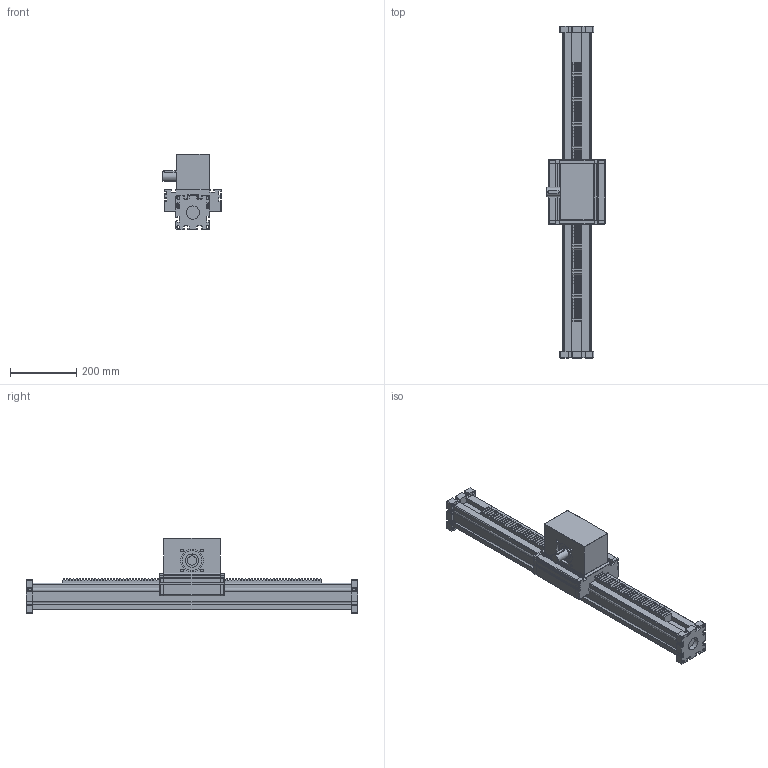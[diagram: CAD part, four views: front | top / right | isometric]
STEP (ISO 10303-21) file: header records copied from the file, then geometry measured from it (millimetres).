
FILE_DESCRIPTION (( 'STEP AP214' ), '1' );
FILE_NAME ('ELDZA80.STEP', '2022-06-28T10:07:01', ( '' ), ( '' ), 'SwSTEP 2.0', 'SolidWorks 2020', '' );
FILE_SCHEMA (( 'AUTOMOTIVE_DESIGN' ));
Length unit declared in the file: millimetre
Products named in the file (5): drive block^ELDZA80_shaft pos. 2; profile^ELDZA80_2x guide rods; bearing block^ELDZA80_2x guide rods; carriage^ELDZA80_carriage 0; ELDZA80
Assembly tree (5 placements, depth 2):
  ELDZA80
    profile^ELDZA80_2x guide rods
    carriage^ELDZA80_carriage 0
    drive block^ELDZA80_shaft pos. 2
    bearing block^ELDZA80_2x guide rods  x2
Bounding box: 175 x 1000 x 226 mm (x, y, z)
Volume: 9317351.6 mm3; surface area: 994445 mm2
Topology: 10 solids, 10 shells, 1198 faces, 3386 edges, 2200 vertices
Faces by surface type: plane 942, cylinder 212, bspline 16, sphere 12, torus 8, cone 8
Entity records: 32960 total; most frequent: CARTESIAN_POINT 6305, ORIENTED_EDGE 5634, DIRECTION 5145, EDGE_CURVE 2817, LINE 2421, VECTOR 2421, VERTEX_POINT 1842, AXIS2_PLACEMENT_3D 1362
